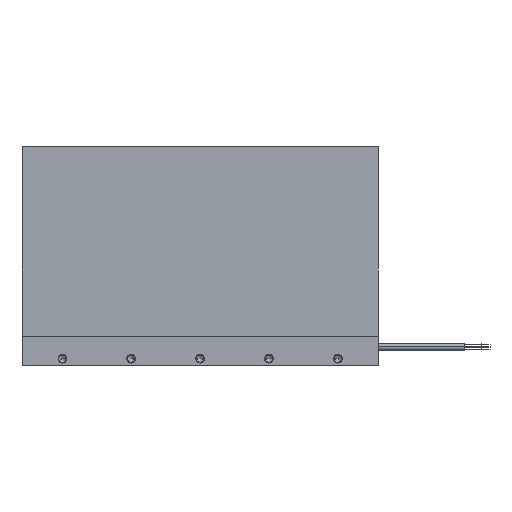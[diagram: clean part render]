
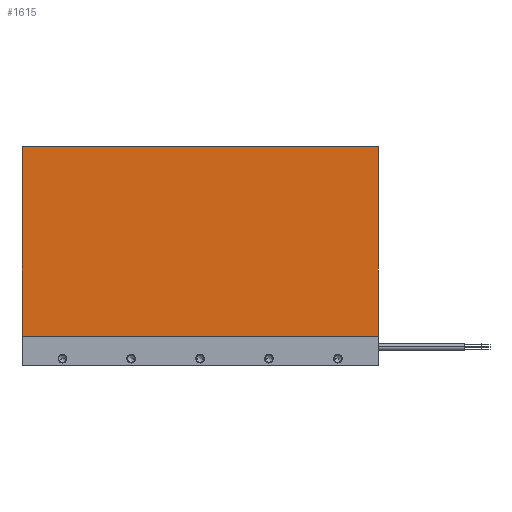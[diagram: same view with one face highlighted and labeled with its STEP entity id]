
A CAD part, left-side view. The second image highlights one B-rep face of the part: STEP entity #1615.
In plain terms, the highlighted planar face has unit normal (-1, 0, 0).
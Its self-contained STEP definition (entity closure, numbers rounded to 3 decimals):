
#21=DIRECTION('',(0.,0.,1.));
#22=VECTOR('',#21,110.3);
#23=CARTESIAN_POINT('',(-2.2,-103.405,0.));
#24=LINE('',#23,#22);
#71=DIRECTION('',(0.,1.,0.));
#72=VECTOR('',#71,206.81);
#73=CARTESIAN_POINT('',(-2.2,-103.405,110.3));
#74=LINE('',#73,#72);
#75=DIRECTION('',(0.,1.,0.));
#76=VECTOR('',#75,206.81);
#77=CARTESIAN_POINT('',(-2.2,-103.405,0.));
#78=LINE('',#77,#76);
#287=DIRECTION('',(0.,0.,1.));
#288=VECTOR('',#287,110.3);
#289=CARTESIAN_POINT('',(-2.2,103.405,0.));
#290=LINE('',#289,#288);
#1191=CARTESIAN_POINT('',(-2.2,-103.405,0.));
#1192=VERTEX_POINT('',#1191);
#1193=CARTESIAN_POINT('',(-2.2,-103.405,110.3));
#1194=VERTEX_POINT('',#1193);
#1207=CARTESIAN_POINT('',(-2.2,103.405,0.));
#1208=VERTEX_POINT('',#1207);
#1209=CARTESIAN_POINT('',(-2.2,103.405,110.3));
#1210=VERTEX_POINT('',#1209);
#1602=CARTESIAN_POINT('',(-2.2,-103.405,0.));
#1603=DIRECTION('',(-1.,0.,0.));
#1604=DIRECTION('',(0.,0.,1.));
#1605=AXIS2_PLACEMENT_3D('',#1602,#1603,#1604);
#1606=PLANE('',#1605);
#1607=ORIENTED_EDGE('',*,*,#1532,.F.);
#1609=ORIENTED_EDGE('',*,*,#1608,.T.);
#1611=ORIENTED_EDGE('',*,*,#1610,.T.);
#1612=ORIENTED_EDGE('',*,*,#1594,.F.);
#1613=EDGE_LOOP('',(#1607,#1609,#1611,#1612));
#1614=FACE_OUTER_BOUND('',#1613,.F.);
#1615=ADVANCED_FACE('',(#1614),#1606,.T.);
#1532=EDGE_CURVE('',#1192,#1194,#24,.T.);
#1594=EDGE_CURVE('',#1194,#1210,#74,.T.);
#1608=EDGE_CURVE('',#1192,#1208,#78,.T.);
#1610=EDGE_CURVE('',#1208,#1210,#290,.T.);
